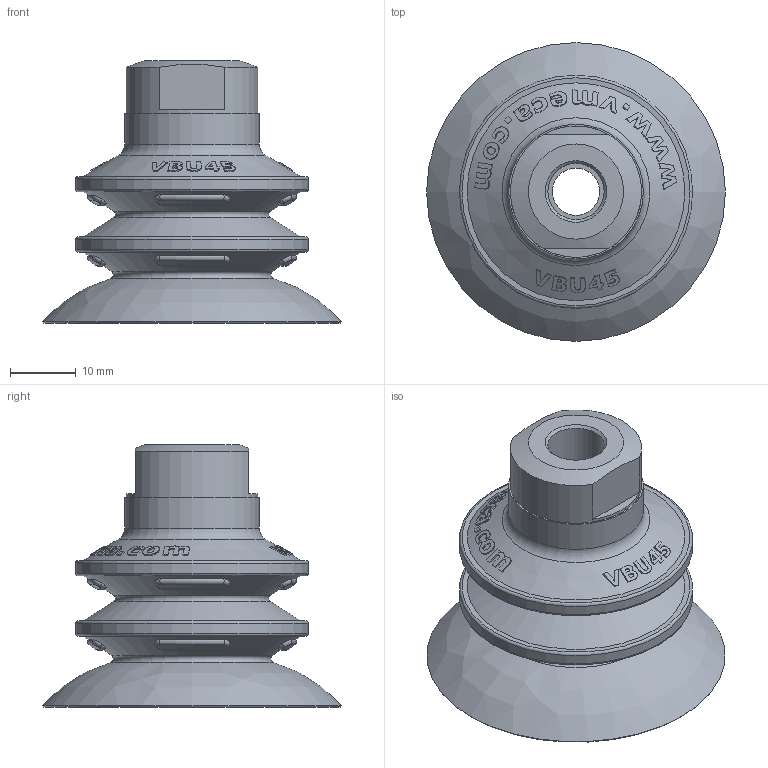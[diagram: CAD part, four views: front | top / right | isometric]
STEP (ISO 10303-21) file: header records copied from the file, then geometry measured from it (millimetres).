
FILE_DESCRIPTION( ( 'Unknown' ), '1' );
FILE_NAME( 'D:/New PAD/3欽 寨煎辦鍔/3D/VBU45/STP/VBU45.. - 18F.stp', 'Unknown', ( 'Unknown' ), ( 'Unknown' ), 'PSStep 10.0', 'Unknown', ' ' );
FILE_SCHEMA( ( 'automotive_design' ) );
Length unit declared in the file: millimetre
Products named in the file (1): 18F-30,40
Bounding box: 45.5 x 45.5 x 40 mm (x, y, z)
Volume: 11774.9 mm3; surface area: 10269.1 mm2
Topology: 1 solids, 1 shells, 338 faces, 873 edges, 574 vertices
Faces by surface type: bspline 207, cone 46, torus 37, plane 29, cylinder 19
Full cylindrical faces by diameter (mm): 7.2 x1, 8.566 x3, 11 x1, 18.979 x2, 20 x1, 20.5 x1, 35.5 x2
Entity records: 23906 total; most frequent: CARTESIAN_POINT 14864, ORIENTED_EDGE 1632, EDGE_CURVE 816, DIRECTION 668, B_SPLINE_CURVE_WITH_KNOTS 591, VERTEX_POINT 561, EDGE_LOOP 421, FACE_OUTER_BOUND 366
